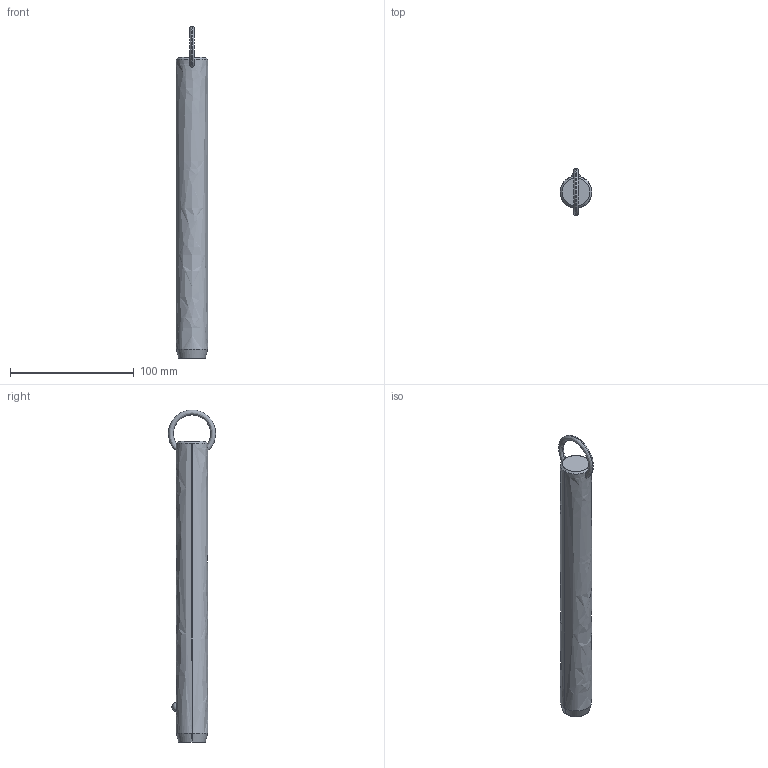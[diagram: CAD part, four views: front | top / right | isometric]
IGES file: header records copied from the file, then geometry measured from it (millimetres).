
Start section: SolidWorks IGES file using analytic representation for surfaces
Global section: file name: C:\Users\liam_\OneDrive\Documents\WORK\Work for WixRoyd\Job Files\J-00019 - Matt Davis CAD Checking\04. CAD Drawings\automotion20190605\P1250.2_v2\P1250.2_v2_20190729_IGES\P1250.100-780.igs; native system: SolidWorks 2017; preprocessor: SolidWorks 2017; author: liam_; date: 190730.175101; units: millimetre
Bounding box: 25.4 x 38.09 x 267.89 mm (x, y, z)
Surface area: 21124 mm2 (no closed solid volume)
Topology: 0 solids, 0 shells, 12 faces, 298 edges, 296 vertices
Faces by surface type: revolution 8, bspline 4
